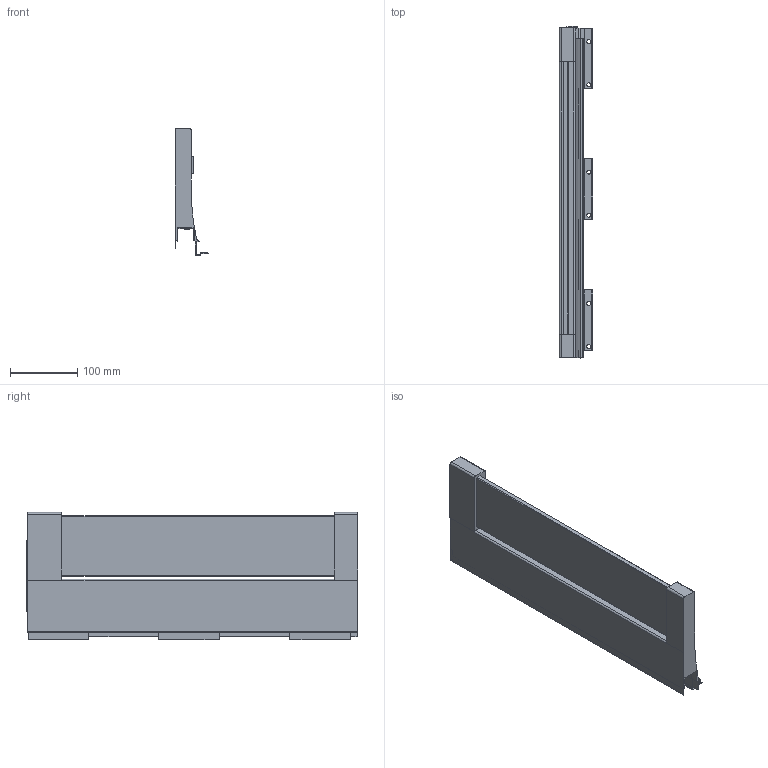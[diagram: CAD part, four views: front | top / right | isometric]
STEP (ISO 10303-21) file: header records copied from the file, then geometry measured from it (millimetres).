
FILE_DESCRIPTION (( 'STEP AP214' ), '1' );
FILE_NAME ('_XP Agantis Dekorseite H95 NL500 LI Top Glashalter.step', '2010-07-08T06:15:54', ( 'grass' ), ( '' ), 'SwSTEP 2.0', 'SolidWorks 2010', '' );
FILE_SCHEMA (( 'AUTOMOTIVE_DESIGN' ));
Length unit declared in the file: millimetre
Products named in the file (1): _XP Agantis Dekorseite H95 NL500 LI  Top Glashalter
Bounding box: 50.11 x 492.6 x 188.7 mm (x, y, z)
Volume: 1183375.5 mm3; surface area: 268417.4 mm2
Topology: 1 solids, 1 shells, 162 faces, 476 edges, 311 vertices
Faces by surface type: plane 131, cylinder 31
Entity records: 5386 total; most frequent: ORIENTED_EDGE 952, CARTESIAN_POINT 950, DIRECTION 866, EDGE_CURVE 476, VECTOR 412, LINE 412, VERTEX_POINT 311, AXIS2_PLACEMENT_3D 227
